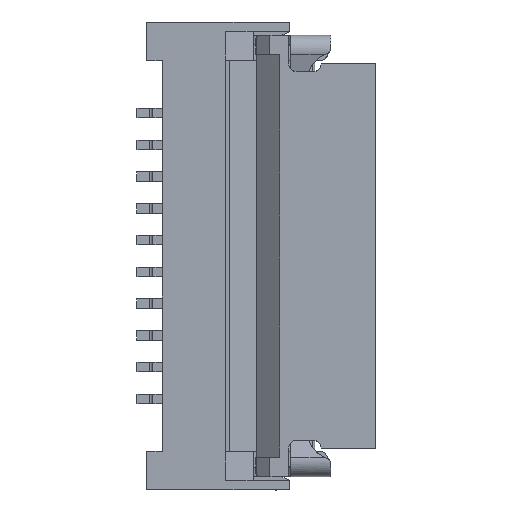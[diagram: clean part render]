
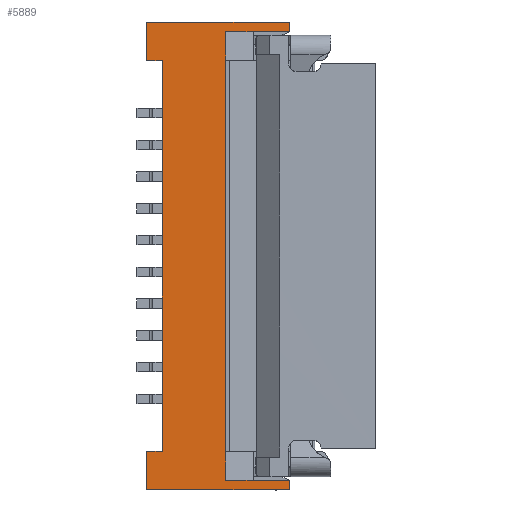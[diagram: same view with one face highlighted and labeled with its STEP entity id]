
A CAD part, top view. The second image highlights one B-rep face of the part: STEP entity #5889.
In plain terms, the highlighted planar face has unit normal (0, 0, 1).
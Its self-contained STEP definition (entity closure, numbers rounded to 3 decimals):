
#372 = EDGE_CURVE ( 'NONE', #5043, #11798, #4233, .T. ) ;
#441 = DIRECTION ( 'NONE',  ( 0., -1., 0. ) ) ;
#447 = CARTESIAN_POINT ( 'NONE',  ( 0.132, -10.386, -0.021 ) ) ;
#509 = CARTESIAN_POINT ( 'NONE',  ( -1.118, -9.926, -0.021 ) ) ;
#643 = VERTEX_POINT ( 'NONE', #1979 ) ;
#769 = CARTESIAN_POINT ( 'NONE',  ( 0.132, -9.936, -0.021 ) ) ;
#1025 = CARTESIAN_POINT ( 'NONE',  ( 1.132, -3.166, -0.021 ) ) ;
#1319 = CARTESIAN_POINT ( 'NONE',  ( 1.132, -10.536, -0.021 ) ) ;
#1507 = VERTEX_POINT ( 'NONE', #4025 ) ;
#1822 = DIRECTION ( 'NONE',  ( 0., 1., 0. ) ) ;
#1948 = VECTOR ( 'NONE', #12779, 1000. ) ;
#1954 = LINE ( 'NONE', #4938, #4086 ) ;
#1979 = CARTESIAN_POINT ( 'NONE',  ( -1.118, -3.166, -0.021 ) ) ;
#2054 = ORIENTED_EDGE ( 'NONE', *, *, #12943, .T. ) ;
#2132 = DIRECTION ( 'NONE',  ( 0., -1., 0. ) ) ;
#2179 = LINE ( 'NONE', #7279, #9525 ) ;
#2190 = VERTEX_POINT ( 'NONE', #11792 ) ;
#2336 = VECTOR ( 'NONE', #441, 1000. ) ;
#2361 = CARTESIAN_POINT ( 'NONE',  ( -1.118, -10.536, -0.021 ) ) ;
#2669 = LINE ( 'NONE', #6820, #4182 ) ;
#2694 = EDGE_CURVE ( 'NONE', #4132, #643, #10036, .T. ) ;
#2961 = DIRECTION ( 'NONE',  ( 0., -1., 0. ) ) ;
#3082 = VECTOR ( 'NONE', #8536, 1000. ) ;
#3201 = CARTESIAN_POINT ( 'NONE',  ( 1.132, -10.386, -0.021 ) ) ;
#3223 = VERTEX_POINT ( 'NONE', #11337 ) ;
#3287 = CARTESIAN_POINT ( 'NONE',  ( 0.132, -3.766, -0.021 ) ) ;
#3314 = CARTESIAN_POINT ( 'NONE',  ( 0.132, -10.386, -0.021 ) ) ;
#3382 = LINE ( 'NONE', #11413, #3082 ) ;
#3512 = CARTESIAN_POINT ( 'NONE',  ( -1.118, -9.926, -0.021 ) ) ;
#3702 = LINE ( 'NONE', #2361, #12209 ) ;
#4025 = CARTESIAN_POINT ( 'NONE',  ( 1.132, -3.316, -0.021 ) ) ;
#4086 = VECTOR ( 'NONE', #9210, 1000. ) ;
#4132 = VERTEX_POINT ( 'NONE', #4456 ) ;
#4144 = VECTOR ( 'NONE', #2132, 1000. ) ;
#4182 = VECTOR ( 'NONE', #7881, 1000. ) ;
#4233 = LINE ( 'NONE', #3201, #5734 ) ;
#4306 = ORIENTED_EDGE ( 'NONE', *, *, #11970, .T. ) ;
#4314 = AXIS2_PLACEMENT_3D ( 'NONE', #10309, #11203, #2961 ) ;
#4456 = CARTESIAN_POINT ( 'NONE',  ( -1.118, -3.776, -0.021 ) ) ;
#4780 = CARTESIAN_POINT ( 'NONE',  ( 0.132, -3.316, -0.021 ) ) ;
#4798 = CARTESIAN_POINT ( 'NONE',  ( -1.118, -10.536, -0.021 ) ) ;
#4854 = EDGE_CURVE ( 'NONE', #8284, #13236, #9817, .T. ) ;
#4875 = FACE_OUTER_BOUND ( 'NONE', #5725, .T. ) ;
#4921 = ORIENTED_EDGE ( 'NONE', *, *, #10819, .F. ) ;
#4938 = CARTESIAN_POINT ( 'NONE',  ( 0.132, -4.316, -0.021 ) ) ;
#4988 = DIRECTION ( 'NONE',  ( 1., 0., 0. ) ) ;
#5043 = VERTEX_POINT ( 'NONE', #11324 ) ;
#5263 = VERTEX_POINT ( 'NONE', #1319 ) ;
#5325 = CARTESIAN_POINT ( 'NONE',  ( 1.132, -3.166, -0.021 ) ) ;
#5340 = EDGE_CURVE ( 'NONE', #3223, #8954, #9924, .T. ) ;
#5725 = EDGE_LOOP ( 'NONE', ( #8145, #13060, #12137, #12950, #7742, #8314, #4921, #2054, #12628, #9237, #4306, #7895, #5843, #8481 ) ) ;
#5727 = LINE ( 'NONE', #13005, #8638 ) ;
#5734 = VECTOR ( 'NONE', #7353, 1000. ) ;
#5831 = EDGE_CURVE ( 'NONE', #8954, #13276, #1954, .T. ) ;
#5843 = ORIENTED_EDGE ( 'NONE', *, *, #372, .T. ) ;
#5889 = ADVANCED_FACE ( 'NONE', ( #4875 ), #12297, .F. ) ;
#5921 = LINE ( 'NONE', #6131, #6734 ) ;
#6051 = VERTEX_POINT ( 'NONE', #8728 ) ;
#6131 = CARTESIAN_POINT ( 'NONE',  ( -0.868, -9.926, -0.021 ) ) ;
#6425 = EDGE_CURVE ( 'NONE', #1507, #3223, #5727, .T. ) ;
#6520 = DIRECTION ( 'NONE',  ( 1., 0., 0. ) ) ;
#6614 = EDGE_CURVE ( 'NONE', #5263, #5043, #2179, .T. ) ;
#6734 = VECTOR ( 'NONE', #9167, 1000. ) ;
#6820 = CARTESIAN_POINT ( 'NONE',  ( -0.868, -3.776, -0.021 ) ) ;
#7120 = EDGE_CURVE ( 'NONE', #11798, #13276, #9758, .T. ) ;
#7279 = CARTESIAN_POINT ( 'NONE',  ( 1.132, -10.536, -0.021 ) ) ;
#7353 = DIRECTION ( 'NONE',  ( -1., 0., 0. ) ) ;
#7411 = DIRECTION ( 'NONE',  ( 0., 1., 0. ) ) ;
#7683 = EDGE_CURVE ( 'NONE', #2190, #8284, #5921, .T. ) ;
#7742 = ORIENTED_EDGE ( 'NONE', *, *, #12028, .F. ) ;
#7866 = CARTESIAN_POINT ( 'NONE',  ( -1.118, -3.776, -0.021 ) ) ;
#7881 = DIRECTION ( 'NONE',  ( -1., 0., 0. ) ) ;
#7895 = ORIENTED_EDGE ( 'NONE', *, *, #6614, .T. ) ;
#8145 = ORIENTED_EDGE ( 'NONE', *, *, #5831, .F. ) ;
#8163 = VECTOR ( 'NONE', #1822, 1000. ) ;
#8284 = VERTEX_POINT ( 'NONE', #3512 ) ;
#8314 = ORIENTED_EDGE ( 'NONE', *, *, #2694, .F. ) ;
#8481 = ORIENTED_EDGE ( 'NONE', *, *, #7120, .T. ) ;
#8536 = DIRECTION ( 'NONE',  ( 0., -1., 0. ) ) ;
#8638 = VECTOR ( 'NONE', #9786, 1000. ) ;
#8728 = CARTESIAN_POINT ( 'NONE',  ( -0.868, -3.776, -0.021 ) ) ;
#8954 = VERTEX_POINT ( 'NONE', #3287 ) ;
#8983 = EDGE_CURVE ( 'NONE', #10911, #1507, #11596, .T. ) ;
#9050 = LINE ( 'NONE', #10974, #12435 ) ;
#9167 = DIRECTION ( 'NONE',  ( -1., 0., 0. ) ) ;
#9210 = DIRECTION ( 'NONE',  ( 0., -1., 0. ) ) ;
#9237 = ORIENTED_EDGE ( 'NONE', *, *, #4854, .T. ) ;
#9525 = VECTOR ( 'NONE', #7411, 1000. ) ;
#9758 = LINE ( 'NONE', #447, #1948 ) ;
#9786 = DIRECTION ( 'NONE',  ( -1., 0., 0. ) ) ;
#9817 = LINE ( 'NONE', #509, #2336 ) ;
#9924 = LINE ( 'NONE', #4780, #10805 ) ;
#10036 = LINE ( 'NONE', #7866, #8163 ) ;
#10309 = CARTESIAN_POINT ( 'NONE',  ( 0., -1., -0.021 ) ) ;
#10805 = VECTOR ( 'NONE', #11167, 1000. ) ;
#10819 = EDGE_CURVE ( 'NONE', #6051, #4132, #2669, .T. ) ;
#10911 = VERTEX_POINT ( 'NONE', #1025 ) ;
#10974 = CARTESIAN_POINT ( 'NONE',  ( -1.118, -3.166, -0.021 ) ) ;
#11167 = DIRECTION ( 'NONE',  ( 0., -1., 0. ) ) ;
#11203 = DIRECTION ( 'NONE',  ( 0., 0., -1. ) ) ;
#11324 = CARTESIAN_POINT ( 'NONE',  ( 1.132, -10.386, -0.021 ) ) ;
#11337 = CARTESIAN_POINT ( 'NONE',  ( 0.132, -3.316, -0.021 ) ) ;
#11413 = CARTESIAN_POINT ( 'NONE',  ( -0.868, 5.224, -0.021 ) ) ;
#11596 = LINE ( 'NONE', #5325, #4144 ) ;
#11792 = CARTESIAN_POINT ( 'NONE',  ( -0.868, -9.926, -0.021 ) ) ;
#11798 = VERTEX_POINT ( 'NONE', #3314 ) ;
#11970 = EDGE_CURVE ( 'NONE', #13236, #5263, #3702, .T. ) ;
#12028 = EDGE_CURVE ( 'NONE', #643, #10911, #9050, .T. ) ;
#12137 = ORIENTED_EDGE ( 'NONE', *, *, #6425, .F. ) ;
#12209 = VECTOR ( 'NONE', #6520, 1000. ) ;
#12297 = PLANE ( 'NONE',  #4314 ) ;
#12435 = VECTOR ( 'NONE', #4988, 1000. ) ;
#12628 = ORIENTED_EDGE ( 'NONE', *, *, #7683, .T. ) ;
#12779 = DIRECTION ( 'NONE',  ( 0., 1., 0. ) ) ;
#12943 = EDGE_CURVE ( 'NONE', #6051, #2190, #3382, .T. ) ;
#12950 = ORIENTED_EDGE ( 'NONE', *, *, #8983, .F. ) ;
#13005 = CARTESIAN_POINT ( 'NONE',  ( 1.132, -3.316, -0.021 ) ) ;
#13060 = ORIENTED_EDGE ( 'NONE', *, *, #5340, .F. ) ;
#13236 = VERTEX_POINT ( 'NONE', #4798 ) ;
#13276 = VERTEX_POINT ( 'NONE', #769 ) ;
